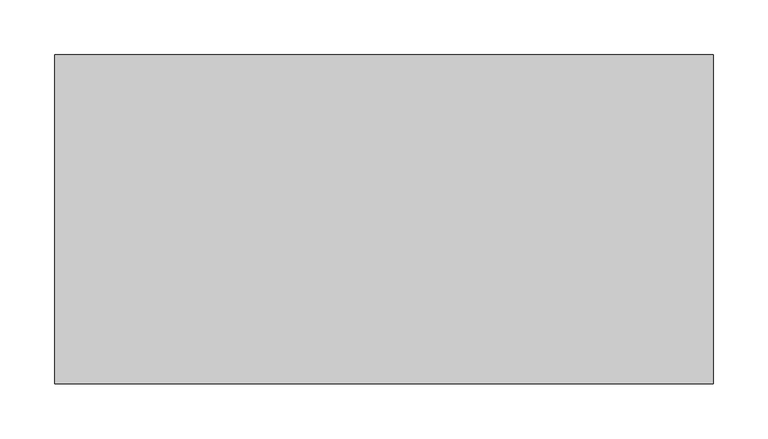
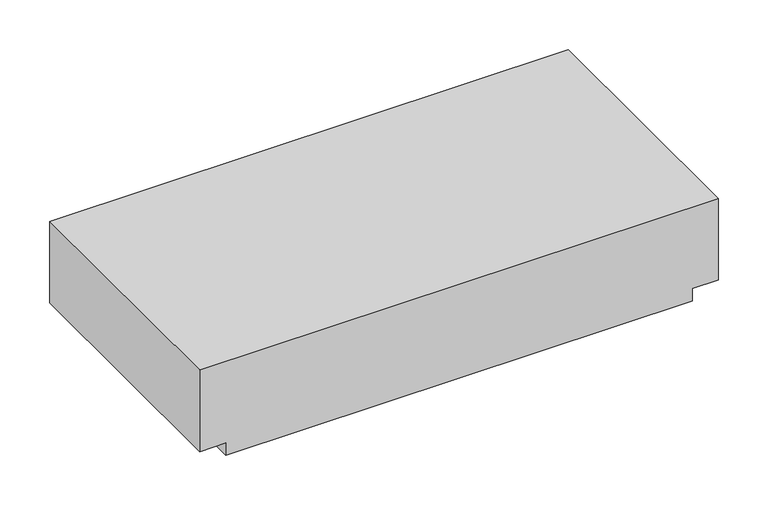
"""IFC4 building model written with IfcOpenShell, lengths in millimetres: proxy geometry, Módulo Laje de Concreto Celular com Friso - Celucon : MLCC friso 11,5x30x60cm (A x B x C)."""

from ifc_helpers import new_model, si_unit, frame, origin, place, context, project, spatial, polyline, outline, extrude, source, transform, mapped, element, save


def generic_models_4925fccc(model_context):
    return source(origin(), model_context, "Body", "SweptSolid", [
        extrude(outline(polyline([(115.0, 300.0), (115.0, -300.0), (15.0, -300.0), (15.0, -270.0), (0.0, -270.0), (0.0, 270.0), (15.0, 270.0), (15.0, 300.0), (115.0, 300.0)])), frame((0.0, -150.0, 0.0), z_axis=(0.0, 1.0, 0.0), x_axis=(0.0, 0.0, 1.0)), (0.0, 0.0, 1.0), 300.0),
    ])


if __name__ == "__main__":
    model = new_model("IFC4")
    model_context = context("Model", 3, world=origin())
    ifc_project = project(units=[si_unit("LENGTHUNIT", "METRE", prefix="MILLI")], contexts=[model_context])
    site = spatial("IfcSite", under=ifc_project)
    building = spatial("IfcBuilding", under=site)
    placement = place(None, origin())
    generic_models_shape = generic_models_4925fccc(model_context)
    element("IfcBuildingElementProxy", 1, Name="Módulo Laje de Concreto Celular com Friso - Celucon : MLCC friso 11,5x30x60cm (A x B x C)", ObjectType="Módulo Laje de Concreto Celular com Friso - Celucon : MLCC friso 11,5x30x60cm (A x B x C)", at=placement, inside=building, context=model_context, shape_type="MappedRepresentation", body=[
        mapped(generic_models_shape, transform((0.0, 0.0, 0.0), x_axis=(1.0, 0.0, 0.0), y_axis=(0.0, 1.0, 0.0), z_axis=(0.0, 0.0, 1.0))),
    ])
    save(model, "model.ifc")
